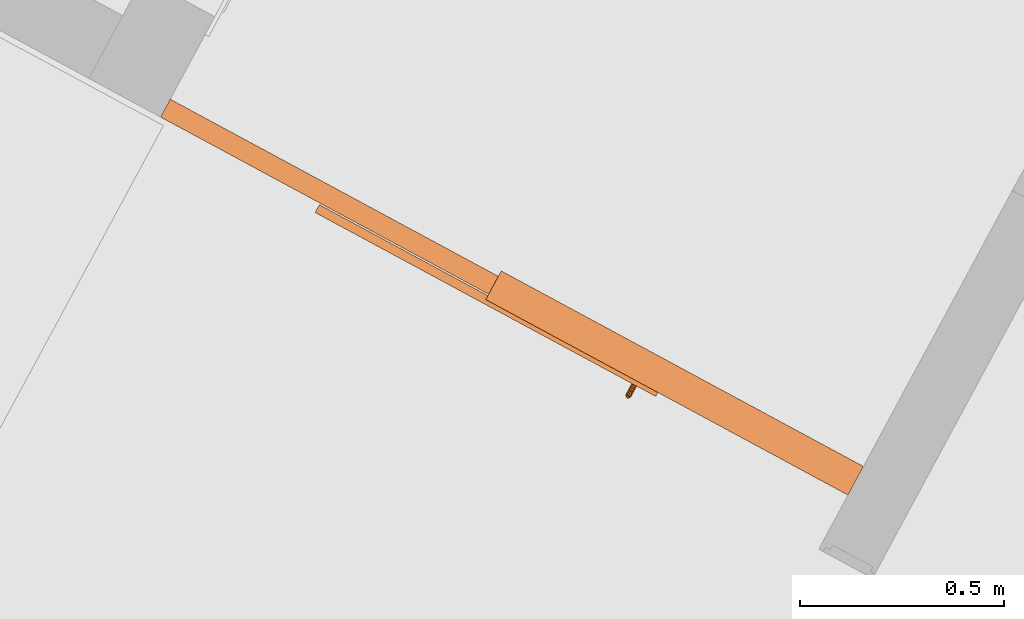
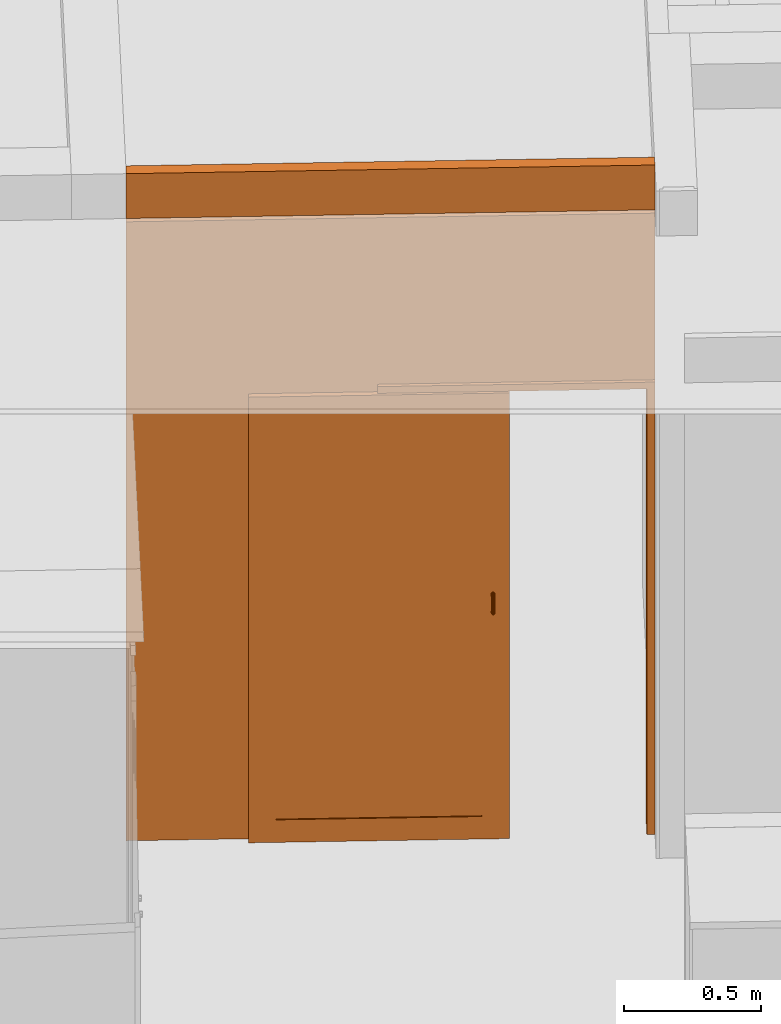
# One storey, part 42 of 48: 2 proxies, 1 opening.
"""IFC2X3 building model written with IfcOpenShell, lengths in metres."""

from ifc_helpers import new_model, entity, si_unit, converted_unit, derived_unit, money_unit, direction, frame, origin_with_axes, place, context, subcontext, project, spatial, open_shell, faceted_brep, surface_model, material, type_object, element, fill, save


model = new_model("IFC2X3")

# Units and contexts
model_context = context("Model", 3, precision=1e-05, world=origin_with_axes(), true_north=direction((0.0, 1.0)))
body_context = subcontext(model_context, "Body", "Model", "MODEL_VIEW")
ifc_project = project(units=[si_unit("LENGTHUNIT", "METRE"), si_unit("AREAUNIT", "SQUARE_METRE"), si_unit("VOLUMEUNIT", "CUBIC_METRE"), converted_unit("PLANEANGLEUNIT", "DEGREE", entity("IfcPlaneAngleMeasure", 0.0174532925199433), si_unit("PLANEANGLEUNIT", "RADIAN"), dimensions=[0, 0, 0, 0, 0, 0, 0]), money_unit("EUR"), converted_unit("TIMEUNIT", "Year", entity("IfcTimeMeasure", 31556926.0), si_unit("TIMEUNIT", "SECOND"), dimensions=[0, 0, 1, 0, 0, 0, 0]), si_unit("MASSUNIT", "GRAM", prefix="KILO"), si_unit("THERMODYNAMICTEMPERATUREUNIT", "DEGREE_CELSIUS"), si_unit("LUMINOUSINTENSITYUNIT", "LUMEN"), si_unit("ENERGYUNIT", "JOULE", prefix="MEGA"), derived_unit("THERMALCONDUCTANCEUNIT", [(si_unit("POWERUNIT", "WATT"), 1), (si_unit("LENGTHUNIT", "METRE"), -1), (si_unit("THERMODYNAMICTEMPERATUREUNIT", "KELVIN"), -1)]), derived_unit("SPECIFICHEATCAPACITYUNIT", [(si_unit("ENERGYUNIT", "JOULE"), 1), (si_unit("MASSUNIT", "GRAM", prefix="KILO"), -1), (si_unit("THERMODYNAMICTEMPERATUREUNIT", "KELVIN"), -1)]), derived_unit("MASSDENSITYUNIT", [(si_unit("MASSUNIT", "GRAM", prefix="KILO"), 1), (si_unit("VOLUMEUNIT", "CUBIC_METRE"), -1)])], contexts=[model_context])

# Site, building, storey
site_placement = place(None, frame((-3.949935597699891, 1.740105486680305, 0.0), z_axis=(0.0, 0.0, 1.0), x_axis=(0.8799804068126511, -0.475009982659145, 0.0)))
site = spatial("IfcSite", under=ifc_project, at=site_placement, Name="Gelände", CompositionType="ELEMENT")
building_placement = place(site_placement, origin_with_axes())
building = spatial("IfcBuilding", under=site, at=building_placement, Name="Gebäude", CompositionType="ELEMENT")
storey_placement = place(building_placement, frame((0.0, 0.0, 4.55), z_axis=(0.0, 0.0, 1.0), x_axis=(1.0, 0.0, 0.0)))
storey = spatial("IfcBuildingStorey", under=building, at=storey_placement, Name="Staffelgeschoss", CompositionType="ELEMENT", Elevation=4.55)

# Proxies, opening
ifc_material = material(Name="ALLGEMEIN - BAUTEIL")
building_element_proxy_type_1 = type_object("IfcBuildingElementProxyType", Name="ALLGEMEIN - BAUTEIL 50", PredefinedType="NOTDEFINED")
proxy_1_placement = place(storey_placement, frame((17.36749336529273, 5.71806071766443, -0.2999999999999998), z_axis=(0.0, 0.0, 1.0), x_axis=(1.0, 0.0, 0.0)))
proxy_1 = element("IfcBuildingElementProxy", 1, at=proxy_1_placement, inside=storey, type_object=building_element_proxy_type_1, material=ifc_material, Name="I-Wand038", context=body_context, shape_type="Brep", body=[
    faceted_brep([(1.925039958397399, 0.0, 2.31), (1.925039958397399, 0.04999999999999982, 2.31), (1.925039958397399, 0.04999999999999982, 3.05), (1.925039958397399, 0.0, 3.05), (0.9150399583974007, 0.04999999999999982, 2.31), (0.9150399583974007, 0.0, 2.31), (0.9150399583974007, 0.04999999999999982, 0.2999999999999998), (0.0, 0.04999999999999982, 0.2999999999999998), (0.0, 0.04999999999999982, 3.05), (0.0, 0.0, 3.05), (0.0, 0.0, 0.2999999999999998), (0.9150399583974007, 0.0, 0.2999999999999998)], [[[0, 1, 2, 3]], [[4, 1, 0, 5]], [[4, 6, 7, 8, 2, 1]], [[3, 2, 8, 9]], [[5, 0, 3, 9, 10, 11]], [[6, 4, 5, 11]], [[6, 11, 10, 7]], [[7, 10, 9, 8]]]),
    faceted_brep([(0.0, 0.04999999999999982, 3.065), (0.0, 0.04999999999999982, 3.263999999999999), (1.925039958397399, 0.04999999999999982, 3.263999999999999), (1.925039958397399, 0.04999999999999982, 3.065), (0.0, 0.0, 3.065), (0.0, 0.0, 3.263999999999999), (1.925039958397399, 0.0, 3.263999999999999), (1.925039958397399, 0.0, 3.065)], [[[0, 1, 2, 3]], [[4, 5, 1, 0]], [[5, 6, 2, 1]], [[3, 2, 6, 7]], [[4, 0, 3, 7]], [[7, 6, 5, 4]]]),
])
opening_placement = place(proxy_1_placement, frame((1.4200399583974, 0.0, 0.2999999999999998), z_axis=(0.0, 0.0, 1.0), x_axis=(1.0, 0.0, 0.0)))
opening = element("IfcOpeningElement", 2, at=opening_placement, cuts=proxy_1, Name="Tür-017", context=body_context, shape_type="Brep", body=[
    faceted_brep([(-0.504999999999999, 0.0, 0.0), (-0.504999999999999, 0.0, 1.98), (-0.504999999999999, -0.001000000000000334, 1.98), (-0.504999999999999, -0.001000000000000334, 2.01), (-0.504999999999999, 0.05100000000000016, 2.01), (-0.504999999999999, 0.05100000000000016, 0.0), (-1.515000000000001, 0.0, 0.0), (-1.515000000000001, 0.0, 1.98), (-1.515000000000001, -0.03000000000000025, 1.98), (-0.504999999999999, -0.03000000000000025, 1.98), (-0.504999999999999, -0.001000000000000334, 0.0), (0.504999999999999, -0.001000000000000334, 0.0), (0.504999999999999, -0.001000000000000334, 2.01), (0.504999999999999, 0.05100000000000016, 2.01), (0.504999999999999, 0.05100000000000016, 0.0), (-0.504999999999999, -0.03000000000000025, 0.0), (-1.515000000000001, -0.03000000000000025, 0.0)], [[[0, 1, 2, 3, 4, 5]], [[1, 0, 6, 7]], [[2, 1, 7, 8, 9]], [[2, 10, 11, 12, 3]], [[13, 4, 3, 12]], [[14, 5, 4, 13]], [[10, 0, 5, 14, 11]], [[0, 10, 15, 16, 6]], [[8, 7, 6, 16]], [[9, 8, 16, 15]], [[10, 2, 9, 15]], [[14, 13, 12, 11]]]),
])
building_element_proxy_type_2 = type_object("IfcBuildingElementProxyType", Name="Schiebetür 02 1 22", PredefinedType="NOTDEFINED")
proxy_2_placement = place(opening_placement, frame((-0.5050000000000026, 0.0, 0.0), z_axis=(0.0, 0.0, 1.0), x_axis=(1.0, 0.0, 0.0)))
proxy_2 = element("IfcBuildingElementProxy", 3, at=proxy_2_placement, inside=storey, type_object=building_element_proxy_type_2, Name="Tür-017", context=body_context, shape_type="SurfaceModel", body=[
    faceted_brep([(0.0, 0.0649999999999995, 0.0), (0.02999999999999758, 0.0649999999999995, 0.0), (0.02999999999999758, 0.04999999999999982, 0.0), (0.0, 0.04999999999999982, 0.0), (0.0, 0.0649999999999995, 2.01), (1.009999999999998, 0.0649999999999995, 2.01), (1.009999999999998, 0.0649999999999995, 0.0), (0.9800000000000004, 0.0649999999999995, 0.0), (0.9800000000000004, 0.0649999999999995, 1.98), (0.02999999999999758, 0.0649999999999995, 1.98), (0.02999999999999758, 0.04999999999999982, 1.98), (0.9800000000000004, 0.04999999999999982, 1.98), (0.9800000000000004, 0.04999999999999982, 0.0), (1.009999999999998, 0.04999999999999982, 0.0), (1.009999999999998, 0.04999999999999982, 2.01), (0.0, 0.04999999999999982, 2.01)], [[[0, 1, 2, 3]], [[0, 4, 5, 6, 7, 8, 9, 1]], [[1, 9, 10, 2]], [[3, 2, 10, 11, 12, 13, 14, 15]], [[4, 0, 3, 15]], [[5, 4, 15, 14]], [[6, 5, 14, 13]], [[7, 6, 13, 12]], [[8, 7, 12, 11]], [[9, 8, 11, 10]]]),
    faceted_brep([(0.0, 0.04999999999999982, 0.0), (0.02999999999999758, 0.04999999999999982, 0.0), (0.02999999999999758, 0.0, 0.0), (0.0, 0.0, 0.0), (0.0, 0.04999999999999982, 2.01), (1.009999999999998, 0.04999999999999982, 2.01), (1.009999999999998, 0.04999999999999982, 0.0), (0.9800000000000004, 0.04999999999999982, 0.0), (0.9800000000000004, 0.04999999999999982, 1.98), (0.02999999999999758, 0.04999999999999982, 1.98), (0.02999999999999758, 0.0, 1.98), (0.9800000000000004, 0.0, 1.98), (0.9800000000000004, 0.0, 0.0), (1.009999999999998, 0.0, 0.0), (1.009999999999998, 0.0, 2.01), (0.0, 0.0, 2.01)], [[[0, 1, 2, 3]], [[0, 4, 5, 6, 7, 8, 9, 1]], [[1, 9, 10, 2]], [[3, 2, 10, 11, 12, 13, 14, 15]], [[4, 0, 3, 15]], [[5, 4, 15, 14]], [[6, 5, 14, 13]], [[7, 6, 13, 12]], [[8, 7, 12, 11]], [[9, 8, 11, 10]]]),
    faceted_brep([(0.0, 0.0, 0.0), (0.02999999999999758, 0.0, 0.0), (0.02999999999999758, -0.01500000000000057, 0.0), (0.0, -0.01500000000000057, 0.0), (0.0, 0.0, 2.01), (1.009999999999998, 0.0, 2.01), (1.009999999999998, 0.0, 0.0), (0.9800000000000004, 0.0, 0.0), (0.9800000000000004, 0.0, 1.98), (0.02999999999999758, 0.0, 1.98), (0.02999999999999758, -0.01499999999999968, 1.98), (0.9800000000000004, -0.01499999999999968, 1.98), (0.9800000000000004, -0.01500000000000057, 0.0), (1.009999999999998, -0.01500000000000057, 0.0), (1.009999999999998, -0.01499999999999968, 2.01), (0.0, -0.01499999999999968, 2.01)], [[[0, 1, 2, 3]], [[0, 4, 5, 6, 7, 8, 9, 1]], [[1, 9, 10, 2]], [[3, 2, 10, 11, 12, 13, 14, 15]], [[4, 0, 3, 15]], [[5, 4, 15, 14]], [[6, 5, 14, 13]], [[7, 6, 13, 12]], [[8, 7, 12, 11]], [[9, 8, 11, 10]]]),
    faceted_brep([(-0.4699500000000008, -0.004000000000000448, 0.09999999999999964), (-0.3699499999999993, -0.004000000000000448, 0.09999999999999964), (-0.3699499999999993, -0.0259999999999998, 0.09999999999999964), (-0.4699500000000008, -0.0259999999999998, 0.09999999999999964), (-0.4699500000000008, -0.004000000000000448, 1.8799), (-0.3699499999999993, -0.004000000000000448, 1.8799), (-0.3699499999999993, -0.0259999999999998, 1.8799), (-0.4699500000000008, -0.0259999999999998, 1.8799)], [[[0, 1, 2, 3]], [[0, 4, 5, 1]], [[1, 5, 6, 2]], [[3, 2, 6, 7]], [[4, 0, 3, 7]], [[5, 4, 7, 6]]]),
    faceted_brep([(0.4799499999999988, -0.004000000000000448, 1.8799), (0.3799499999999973, -0.004000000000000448, 1.8799), (0.3799499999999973, -0.0259999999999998, 1.8799), (0.4799499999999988, -0.0259999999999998, 1.8799), (0.4799499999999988, -0.004000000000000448, 0.09999999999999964), (0.3799499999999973, -0.004000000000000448, 0.09999999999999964), (0.3799499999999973, -0.0259999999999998, 0.09999999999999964), (0.4799499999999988, -0.0259999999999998, 0.09999999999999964)], [[[0, 1, 2, 3]], [[0, 4, 5, 1]], [[1, 5, 6, 2]], [[3, 2, 6, 7]], [[4, 0, 3, 7]], [[5, 4, 7, 6]]]),
    faceted_brep([(0.4799499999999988, -0.004000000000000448, 0.0), (0.4799499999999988, -0.004000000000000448, 0.09999999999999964), (0.4799499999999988, -0.0259999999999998, 0.09999999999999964), (0.4799499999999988, -0.0259999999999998, 0.0), (-0.4699500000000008, -0.004000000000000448, 0.0), (-0.4699500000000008, -0.004000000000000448, 0.09999999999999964), (-0.3699499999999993, -0.004000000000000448, 0.09999999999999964), (0.3799499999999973, -0.004000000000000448, 0.09999999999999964), (0.3799499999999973, -0.0259999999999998, 0.09999999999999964), (-0.3699499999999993, -0.0259999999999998, 0.09999999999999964), (-0.4699500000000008, -0.0259999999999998, 0.09999999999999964), (-0.4699500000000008, -0.0259999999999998, 0.0)], [[[0, 1, 2, 3]], [[0, 4, 5, 6, 7, 1]], [[1, 7, 8, 2]], [[3, 2, 8, 9, 10, 11]], [[4, 0, 3, 11]], [[5, 4, 11, 10]], [[6, 5, 10, 9]], [[7, 6, 9, 8]]]),
    faceted_brep([(-0.4699500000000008, -0.004000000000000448, 1.9799), (-0.4699500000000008, -0.004000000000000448, 1.8799), (-0.4699500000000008, -0.0259999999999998, 1.8799), (-0.4699500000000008, -0.0259999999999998, 1.9799), (0.4799499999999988, -0.004000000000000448, 1.9799), (0.4799499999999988, -0.004000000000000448, 1.8799), (0.3799499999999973, -0.004000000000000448, 1.8799), (-0.3699499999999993, -0.004000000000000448, 1.8799), (-0.3699499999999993, -0.0259999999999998, 1.8799), (0.3799499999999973, -0.0259999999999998, 1.8799), (0.4799499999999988, -0.0259999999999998, 1.8799), (0.4799499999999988, -0.0259999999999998, 1.9799)], [[[0, 1, 2, 3]], [[0, 4, 5, 6, 7, 1]], [[1, 7, 8, 2]], [[3, 2, 8, 9, 10, 11]], [[4, 0, 3, 11]], [[5, 4, 11, 10]], [[6, 5, 10, 9]], [[7, 6, 9, 8]]]),
    surface_model("IfcShellBasedSurfaceModel", [(-0.3699499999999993, -0.009000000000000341, 0.09999999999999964), (-0.3699499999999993, -0.009000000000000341, 1.8799), (0.3799499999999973, -0.009000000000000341, 1.8799), (0.3799499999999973, -0.009000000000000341, 0.09999999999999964)], [open_shell([[[0, 1, 2, 3]]])]),
    surface_model("IfcShellBasedSurfaceModel", [(-0.3699499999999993, -0.02099999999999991, 0.09999999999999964), (0.3799499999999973, -0.02099999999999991, 0.09999999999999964), (0.3799499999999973, -0.02099999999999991, 1.8799), (-0.3699499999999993, -0.02099999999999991, 1.8799)], [open_shell([[[0, 1, 2, 3]]])]),
    faceted_brep([(0.4129499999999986, -0.04100000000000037, 1.085980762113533), (0.4138878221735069, -0.04274999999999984, 1.089011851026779), (0.4138878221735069, -0.0259999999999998, 1.0935), (0.4129499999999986, -0.0259999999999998, 1.09), (0.4129499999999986, -0.05198076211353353, 1.075), (0.4138878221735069, -0.05501185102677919, 1.07675), (0.4164499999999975, -0.04403108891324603, 1.091230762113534), (0.4164499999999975, -0.0259999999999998, 1.096062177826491), (0.41995, -0.0259999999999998, 1.097), (0.423449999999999, -0.0259999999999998, 1.096062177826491), (0.4260121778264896, -0.0259999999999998, 1.0935), (0.4269499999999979, -0.0259999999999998, 1.09), (0.4260121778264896, -0.0259999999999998, 1.0865), (0.423449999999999, -0.0259999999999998, 1.083937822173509), (0.41995, -0.0259999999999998, 1.083), (0.4164499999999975, -0.0259999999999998, 1.083937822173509), (0.4138878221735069, -0.0259999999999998, 1.0865), (0.4138878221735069, -0.03925000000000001, 1.082949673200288), (0.4129499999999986, -0.05600000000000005, 1.06), (0.4138878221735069, -0.05949999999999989, 1.06), (0.4164499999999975, -0.05723076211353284, 1.078031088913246), (0.4138878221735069, -0.04894967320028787, 1.07325), (0.41995, -0.04450000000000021, 1.092042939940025), (0.423449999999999, -0.04403108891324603, 1.091230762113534), (0.4260121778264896, -0.04274999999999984, 1.089011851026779), (0.4269499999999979, -0.04100000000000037, 1.085980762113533), (0.4260121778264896, -0.03925000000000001, 1.082949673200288), (0.423449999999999, -0.03796891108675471, 1.080730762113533), (0.41995, -0.03750000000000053, 1.079918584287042), (0.4164499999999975, -0.03796891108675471, 1.080730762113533), (0.4138878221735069, -0.05250000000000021, 1.06), (0.4164499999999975, -0.04993782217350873, 1.06), (0.41995, -0.04900000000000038, 1.06), (0.423449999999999, -0.04993782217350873, 1.06), (0.4260121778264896, -0.05250000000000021, 1.06), (0.4269499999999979, -0.05600000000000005, 1.06), (0.4260121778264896, -0.05949999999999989, 1.06), (0.423449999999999, -0.06206217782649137, 1.06), (0.41995, -0.06299999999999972, 1.06), (0.4164499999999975, -0.06206217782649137, 1.06), (0.41995, -0.05804293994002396, 1.0785), (0.4164499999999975, -0.04673076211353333, 1.071968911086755), (0.423449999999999, -0.05723076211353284, 1.078031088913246), (0.4260121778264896, -0.05501185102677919, 1.07675), (0.4269499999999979, -0.05198076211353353, 1.075), (0.4260121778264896, -0.04894967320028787, 1.07325), (0.423449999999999, -0.04673076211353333, 1.071968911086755), (0.41995, -0.04591858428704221, 1.0715)], [[[0, 1, 2, 3]], [[4, 5, 1, 0]], [[1, 6, 7, 2]], [[3, 2, 7, 8, 9, 10, 11, 12, 13, 14, 15, 16]], [[17, 0, 3, 16]], [[18, 19, 5, 4]], [[5, 20, 6, 1]], [[21, 4, 0, 17]], [[6, 22, 8, 7]], [[22, 23, 9, 8]], [[23, 24, 10, 9]], [[24, 25, 11, 10]], [[25, 26, 12, 11]], [[26, 27, 13, 12]], [[27, 28, 14, 13]], [[28, 29, 15, 14]], [[29, 17, 16, 15]], [[18, 30, 31, 32, 33, 34, 35, 36, 37, 38, 39, 19]], [[19, 39, 20, 5]], [[30, 18, 4, 21]], [[20, 40, 22, 6]], [[41, 21, 17, 29]], [[40, 42, 23, 22]], [[42, 43, 24, 23]], [[43, 44, 25, 24]], [[44, 45, 26, 25]], [[45, 46, 27, 26]], [[46, 47, 28, 27]], [[47, 41, 29, 28]], [[31, 30, 21, 41]], [[32, 31, 41, 47]], [[33, 32, 47, 46]], [[34, 33, 46, 45]], [[35, 34, 45, 44]], [[36, 35, 44, 43]], [[37, 36, 43, 42]], [[38, 37, 42, 40]], [[39, 38, 40, 20]]]),
    faceted_brep([(0.4269499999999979, -0.04100000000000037, 1.014019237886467), (0.4260121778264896, -0.04274999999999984, 1.010988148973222), (0.4260121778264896, -0.0259999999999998, 1.0065), (0.4269499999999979, -0.0259999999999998, 1.01), (0.4269499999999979, -0.05198076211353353, 1.025), (0.4260121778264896, -0.05501185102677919, 1.02325), (0.423449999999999, -0.04403108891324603, 1.008769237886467), (0.423449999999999, -0.0259999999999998, 1.003937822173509), (0.41995, -0.0259999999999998, 1.003), (0.4164499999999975, -0.0259999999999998, 1.003937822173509), (0.4138878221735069, -0.0259999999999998, 1.0065), (0.4129499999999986, -0.0259999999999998, 1.01), (0.4138878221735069, -0.0259999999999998, 1.0135), (0.4164499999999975, -0.0259999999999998, 1.016062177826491), (0.41995, -0.0259999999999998, 1.017), (0.423449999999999, -0.0259999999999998, 1.016062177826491), (0.4260121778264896, -0.0259999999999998, 1.0135), (0.4260121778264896, -0.03925000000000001, 1.017050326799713), (0.4269499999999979, -0.05600000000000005, 1.04), (0.4260121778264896, -0.05949999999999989, 1.04), (0.423449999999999, -0.05723076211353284, 1.021968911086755), (0.4260121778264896, -0.04894967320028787, 1.02675), (0.41995, -0.04450000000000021, 1.007957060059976), (0.4164499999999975, -0.04403108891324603, 1.008769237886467), (0.4138878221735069, -0.04274999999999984, 1.010988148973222), (0.4129499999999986, -0.04100000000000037, 1.014019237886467), (0.4138878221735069, -0.03925000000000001, 1.017050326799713), (0.4164499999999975, -0.03796891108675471, 1.019269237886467), (0.41995, -0.03750000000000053, 1.020081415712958), (0.423449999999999, -0.03796891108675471, 1.019269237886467), (0.4260121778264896, -0.05250000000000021, 1.04), (0.423449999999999, -0.04993782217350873, 1.04), (0.41995, -0.04900000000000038, 1.04), (0.4164499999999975, -0.04993782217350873, 1.04), (0.4138878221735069, -0.05250000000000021, 1.04), (0.4129499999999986, -0.05600000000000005, 1.04), (0.4138878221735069, -0.05949999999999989, 1.04), (0.4164499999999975, -0.06206217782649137, 1.04), (0.41995, -0.06299999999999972, 1.04), (0.423449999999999, -0.06206217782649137, 1.04), (0.41995, -0.05804293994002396, 1.021500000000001), (0.423449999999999, -0.04673076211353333, 1.028031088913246), (0.4164499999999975, -0.05723076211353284, 1.021968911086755), (0.4138878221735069, -0.05501185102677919, 1.02325), (0.4129499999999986, -0.05198076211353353, 1.025), (0.4138878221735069, -0.04894967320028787, 1.02675), (0.4164499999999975, -0.04673076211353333, 1.028031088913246), (0.41995, -0.04591858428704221, 1.0285)], [[[0, 1, 2, 3]], [[4, 5, 1, 0]], [[1, 6, 7, 2]], [[3, 2, 7, 8, 9, 10, 11, 12, 13, 14, 15, 16]], [[17, 0, 3, 16]], [[18, 19, 5, 4]], [[5, 20, 6, 1]], [[21, 4, 0, 17]], [[6, 22, 8, 7]], [[22, 23, 9, 8]], [[23, 24, 10, 9]], [[24, 25, 11, 10]], [[25, 26, 12, 11]], [[26, 27, 13, 12]], [[27, 28, 14, 13]], [[28, 29, 15, 14]], [[29, 17, 16, 15]], [[18, 30, 31, 32, 33, 34, 35, 36, 37, 38, 39, 19]], [[19, 39, 20, 5]], [[30, 18, 4, 21]], [[20, 40, 22, 6]], [[41, 21, 17, 29]], [[40, 42, 23, 22]], [[42, 43, 24, 23]], [[43, 44, 25, 24]], [[44, 45, 26, 25]], [[45, 46, 27, 26]], [[46, 47, 28, 27]], [[47, 41, 29, 28]], [[31, 30, 21, 41]], [[32, 31, 41, 47]], [[33, 32, 47, 46]], [[34, 33, 46, 45]], [[35, 34, 45, 44]], [[36, 35, 44, 43]], [[37, 36, 43, 42]], [[38, 37, 42, 40]], [[39, 38, 40, 20]]]),
    faceted_brep([(0.4129499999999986, -0.05600000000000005, 1.04), (0.4129499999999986, -0.05600000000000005, 1.06), (0.4138878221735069, -0.05250000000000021, 1.06), (0.4138878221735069, -0.05250000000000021, 1.04), (0.4138878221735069, -0.05949999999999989, 1.04), (0.4138878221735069, -0.05949999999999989, 1.06), (0.4164499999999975, -0.06206217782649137, 1.06), (0.41995, -0.06299999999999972, 1.06), (0.423449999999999, -0.06206217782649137, 1.06), (0.4260121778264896, -0.05949999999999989, 1.06), (0.4269499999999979, -0.05600000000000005, 1.06), (0.4260121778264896, -0.05250000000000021, 1.06), (0.423449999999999, -0.04993782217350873, 1.06), (0.41995, -0.04900000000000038, 1.06), (0.4164499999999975, -0.04993782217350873, 1.06), (0.4164499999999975, -0.04993782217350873, 1.04), (0.41995, -0.04900000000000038, 1.04), (0.423449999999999, -0.04993782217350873, 1.04), (0.4260121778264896, -0.05250000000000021, 1.04), (0.4269499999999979, -0.05600000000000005, 1.04), (0.4260121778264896, -0.05949999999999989, 1.04), (0.423449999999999, -0.06206217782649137, 1.04), (0.41995, -0.06299999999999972, 1.04), (0.4164499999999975, -0.06206217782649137, 1.04)], [[[0, 1, 2, 3]], [[4, 5, 1, 0]], [[1, 5, 6, 7, 8, 9, 10, 11, 12, 13, 14, 2]], [[3, 2, 14, 15]], [[0, 3, 15, 16, 17, 18, 19, 20, 21, 22, 23, 4]], [[23, 6, 5, 4]], [[22, 7, 6, 23]], [[21, 8, 7, 22]], [[20, 9, 8, 21]], [[19, 10, 9, 20]], [[18, 11, 10, 19]], [[17, 12, 11, 18]], [[16, 13, 12, 17]], [[15, 14, 13, 16]]]),
    faceted_brep([(0.4129499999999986, 0.01100000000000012, 1.085980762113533), (0.4129499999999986, -0.004000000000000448, 1.09), (0.4138878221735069, -0.004000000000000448, 1.0935), (0.4138878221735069, 0.01274999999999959, 1.089011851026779), (0.4138878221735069, 0.009249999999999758, 1.082949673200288), (0.4138878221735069, -0.004000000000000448, 1.0865), (0.4164499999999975, -0.004000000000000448, 1.083937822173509), (0.41995, -0.004000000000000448, 1.083), (0.423449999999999, -0.004000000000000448, 1.083937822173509), (0.4260121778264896, -0.004000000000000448, 1.0865), (0.4269499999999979, -0.004000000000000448, 1.09), (0.4260121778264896, -0.004000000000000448, 1.0935), (0.423449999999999, -0.004000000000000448, 1.096062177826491), (0.41995, -0.004000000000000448, 1.097), (0.4164499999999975, -0.004000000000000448, 1.096062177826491), (0.4164499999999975, 0.01403108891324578, 1.091230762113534), (0.4129499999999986, 0.02198076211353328, 1.075), (0.4138878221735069, 0.02501185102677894, 1.07675), (0.4164499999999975, 0.00796891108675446, 1.080730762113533), (0.4138878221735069, 0.01894967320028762, 1.07325), (0.41995, 0.007500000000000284, 1.079918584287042), (0.423449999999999, 0.00796891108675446, 1.080730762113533), (0.4260121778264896, 0.009249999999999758, 1.082949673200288), (0.4269499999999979, 0.01100000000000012, 1.085980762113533), (0.4260121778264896, 0.01274999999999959, 1.089011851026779), (0.423449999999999, 0.01403108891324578, 1.091230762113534), (0.41995, 0.01449999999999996, 1.092042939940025), (0.4164499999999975, 0.02723076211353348, 1.078031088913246), (0.4129499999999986, 0.0259999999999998, 1.06), (0.4138878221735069, 0.02949999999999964, 1.06), (0.4164499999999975, 0.01673076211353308, 1.071968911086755), (0.4138878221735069, 0.02249999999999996, 1.06), (0.41995, 0.01591858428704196, 1.0715), (0.423449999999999, 0.01673076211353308, 1.071968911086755), (0.4260121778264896, 0.01894967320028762, 1.07325), (0.4269499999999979, 0.02198076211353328, 1.075), (0.4260121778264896, 0.02501185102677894, 1.07675), (0.423449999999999, 0.02723076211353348, 1.078031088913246), (0.41995, 0.02804293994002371, 1.0785), (0.4164499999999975, 0.03206217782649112, 1.06), (0.41995, 0.03299999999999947, 1.06), (0.423449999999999, 0.03206217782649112, 1.06), (0.4260121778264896, 0.02949999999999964, 1.06), (0.4269499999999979, 0.0259999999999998, 1.06), (0.4260121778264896, 0.02249999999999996, 1.06), (0.423449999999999, 0.01993782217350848, 1.06), (0.41995, 0.01900000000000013, 1.06), (0.4164499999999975, 0.01993782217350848, 1.06)], [[[0, 1, 2, 3]], [[4, 5, 1, 0]], [[1, 5, 6, 7, 8, 9, 10, 11, 12, 13, 14, 2]], [[3, 2, 14, 15]], [[16, 0, 3, 17]], [[18, 6, 5, 4]], [[19, 4, 0, 16]], [[20, 7, 6, 18]], [[21, 8, 7, 20]], [[22, 9, 8, 21]], [[23, 10, 9, 22]], [[24, 11, 10, 23]], [[25, 12, 11, 24]], [[26, 13, 12, 25]], [[15, 14, 13, 26]], [[17, 3, 15, 27]], [[28, 16, 17, 29]], [[30, 18, 4, 19]], [[31, 19, 16, 28]], [[32, 20, 18, 30]], [[33, 21, 20, 32]], [[34, 22, 21, 33]], [[35, 23, 22, 34]], [[36, 24, 23, 35]], [[37, 25, 24, 36]], [[38, 26, 25, 37]], [[27, 15, 26, 38]], [[29, 17, 27, 39]], [[28, 29, 39, 40, 41, 42, 43, 44, 45, 46, 47, 31]], [[47, 30, 19, 31]], [[46, 32, 30, 47]], [[45, 33, 32, 46]], [[44, 34, 33, 45]], [[43, 35, 34, 44]], [[42, 36, 35, 43]], [[41, 37, 36, 42]], [[40, 38, 37, 41]], [[39, 27, 38, 40]]]),
    faceted_brep([(0.4269499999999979, 0.01100000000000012, 1.014019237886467), (0.4269499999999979, -0.004000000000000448, 1.01), (0.4260121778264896, -0.004000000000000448, 1.0065), (0.4260121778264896, 0.01274999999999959, 1.010988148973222), (0.4260121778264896, 0.009249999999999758, 1.017050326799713), (0.4260121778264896, -0.004000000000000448, 1.0135), (0.423449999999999, -0.004000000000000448, 1.016062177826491), (0.41995, -0.004000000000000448, 1.017), (0.4164499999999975, -0.004000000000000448, 1.016062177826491), (0.4138878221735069, -0.004000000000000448, 1.0135), (0.4129499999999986, -0.004000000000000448, 1.01), (0.4138878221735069, -0.004000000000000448, 1.0065), (0.4164499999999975, -0.004000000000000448, 1.003937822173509), (0.41995, -0.004000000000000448, 1.003), (0.423449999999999, -0.004000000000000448, 1.003937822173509), (0.423449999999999, 0.01403108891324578, 1.008769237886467), (0.4269499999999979, 0.02198076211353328, 1.025), (0.4260121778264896, 0.02501185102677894, 1.02325), (0.423449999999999, 0.00796891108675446, 1.019269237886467), (0.4260121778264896, 0.01894967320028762, 1.02675), (0.41995, 0.007500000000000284, 1.020081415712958), (0.4164499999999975, 0.00796891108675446, 1.019269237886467), (0.4138878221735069, 0.009249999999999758, 1.017050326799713), (0.4129499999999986, 0.01100000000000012, 1.014019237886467), (0.4138878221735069, 0.01274999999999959, 1.010988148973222), (0.4164499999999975, 0.01403108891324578, 1.008769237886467), (0.41995, 0.01449999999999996, 1.007957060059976), (0.423449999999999, 0.02723076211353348, 1.021968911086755), (0.4269499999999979, 0.0259999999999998, 1.04), (0.4260121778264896, 0.02949999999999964, 1.04), (0.423449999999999, 0.01673076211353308, 1.028031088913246), (0.4260121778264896, 0.02249999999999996, 1.04), (0.41995, 0.01591858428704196, 1.0285), (0.4164499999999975, 0.01673076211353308, 1.028031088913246), (0.4138878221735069, 0.01894967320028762, 1.02675), (0.4129499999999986, 0.02198076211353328, 1.025), (0.4138878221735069, 0.02501185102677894, 1.02325), (0.4164499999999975, 0.02723076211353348, 1.021968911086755), (0.41995, 0.02804293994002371, 1.021500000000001), (0.423449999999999, 0.03206217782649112, 1.04), (0.41995, 0.03299999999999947, 1.04), (0.4164499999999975, 0.03206217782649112, 1.04), (0.4138878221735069, 0.02949999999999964, 1.04), (0.4129499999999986, 0.0259999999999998, 1.04), (0.4138878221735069, 0.02249999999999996, 1.04), (0.4164499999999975, 0.01993782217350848, 1.04), (0.41995, 0.01900000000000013, 1.04), (0.423449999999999, 0.01993782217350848, 1.04)], [[[0, 1, 2, 3]], [[4, 5, 1, 0]], [[1, 5, 6, 7, 8, 9, 10, 11, 12, 13, 14, 2]], [[3, 2, 14, 15]], [[16, 0, 3, 17]], [[18, 6, 5, 4]], [[19, 4, 0, 16]], [[20, 7, 6, 18]], [[21, 8, 7, 20]], [[22, 9, 8, 21]], [[23, 10, 9, 22]], [[24, 11, 10, 23]], [[25, 12, 11, 24]], [[26, 13, 12, 25]], [[15, 14, 13, 26]], [[17, 3, 15, 27]], [[28, 16, 17, 29]], [[30, 18, 4, 19]], [[31, 19, 16, 28]], [[32, 20, 18, 30]], [[33, 21, 20, 32]], [[34, 22, 21, 33]], [[35, 23, 22, 34]], [[36, 24, 23, 35]], [[37, 25, 24, 36]], [[38, 26, 25, 37]], [[27, 15, 26, 38]], [[29, 17, 27, 39]], [[28, 29, 39, 40, 41, 42, 43, 44, 45, 46, 47, 31]], [[47, 30, 19, 31]], [[46, 32, 30, 47]], [[45, 33, 32, 46]], [[44, 34, 33, 45]], [[43, 35, 34, 44]], [[42, 36, 35, 43]], [[41, 37, 36, 42]], [[40, 38, 37, 41]], [[39, 27, 38, 40]]]),
    faceted_brep([(0.4129499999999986, 0.0259999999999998, 1.04), (0.4138878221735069, 0.02249999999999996, 1.04), (0.4138878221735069, 0.02249999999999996, 1.06), (0.4129499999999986, 0.0259999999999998, 1.06), (0.4138878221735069, 0.02949999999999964, 1.04), (0.4164499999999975, 0.03206217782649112, 1.04), (0.41995, 0.03299999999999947, 1.04), (0.423449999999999, 0.03206217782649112, 1.04), (0.4260121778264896, 0.02949999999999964, 1.04), (0.4269499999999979, 0.0259999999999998, 1.04), (0.4260121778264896, 0.02249999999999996, 1.04), (0.423449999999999, 0.01993782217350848, 1.04), (0.41995, 0.01900000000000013, 1.04), (0.4164499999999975, 0.01993782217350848, 1.04), (0.4164499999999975, 0.01993782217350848, 1.06), (0.41995, 0.01900000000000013, 1.06), (0.423449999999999, 0.01993782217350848, 1.06), (0.4260121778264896, 0.02249999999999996, 1.06), (0.4269499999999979, 0.0259999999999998, 1.06), (0.4260121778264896, 0.02949999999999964, 1.06), (0.423449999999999, 0.03206217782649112, 1.06), (0.41995, 0.03299999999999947, 1.06), (0.4164499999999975, 0.03206217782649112, 1.06), (0.4138878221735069, 0.02949999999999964, 1.06)], [[[0, 1, 2, 3]], [[0, 4, 5, 6, 7, 8, 9, 10, 11, 12, 13, 1]], [[1, 13, 14, 2]], [[3, 2, 14, 15, 16, 17, 18, 19, 20, 21, 22, 23]], [[4, 0, 3, 23]], [[5, 4, 23, 22]], [[6, 5, 22, 21]], [[7, 6, 21, 20]], [[8, 7, 20, 19]], [[9, 8, 19, 18]], [[10, 9, 18, 17]], [[11, 10, 17, 16]], [[12, 11, 16, 15]], [[13, 12, 15, 14]]]),
])
fill(opening, proxy_2)

save(model, "model.ifc")
